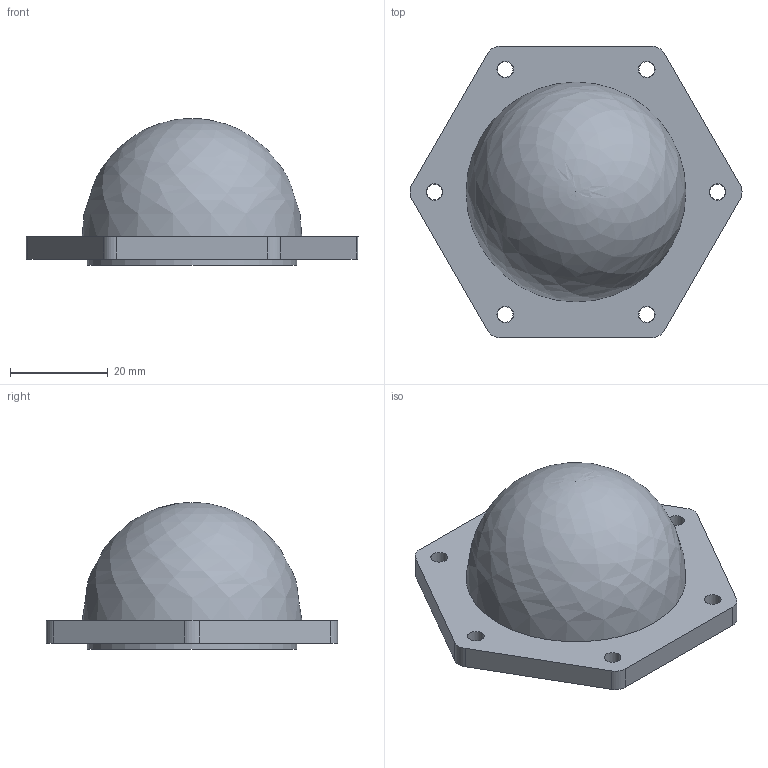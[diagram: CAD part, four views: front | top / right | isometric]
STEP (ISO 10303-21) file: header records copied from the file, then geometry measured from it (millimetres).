
FILE_DESCRIPTION(('FreeCAD Model'),'2;1');
FILE_NAME('Open CASCADE Shape Model','2025-02-21T19:42:22',(''),(''), 'Open CASCADE STEP processor 7.6','FreeCAD','Unknown');
FILE_SCHEMA(('AUTOMOTIVE_DESIGN { 1 0 10303 214 1 1 1 1 }'));
Length unit declared in the file: millimetre
Products named in the file (3): DomeD45H27_; DomeD45H27; DomeD45H005
Assembly tree (2 placements, depth 2):
  DomeD45H27_
    DomeD45H27
    DomeD45H005
Bounding box: 68.01 x 59.7 x 30.1 mm (x, y, z)
Volume: 13381.1 mm3; surface area: 12376 mm2
Topology: 2 solids, 2 shells, 43 faces, 92 edges, 61 vertices
Faces by surface type: cylinder 22, plane 18, revolution 3
Full cylindrical faces by diameter (mm): 3.2 x6, 3.4 x6, 41 x1, 43 x1, 45.8 x1, 52 x1
Entity records: 1284 total; most frequent: DIRECTION 223, CARTESIAN_POINT 218, ORIENTED_EDGE 180, AXIS2_PLACEMENT_3D 90, EDGE_CURVE 90, FACE_BOUND 67, EDGE_LOOP 67, VERTEX_POINT 61
